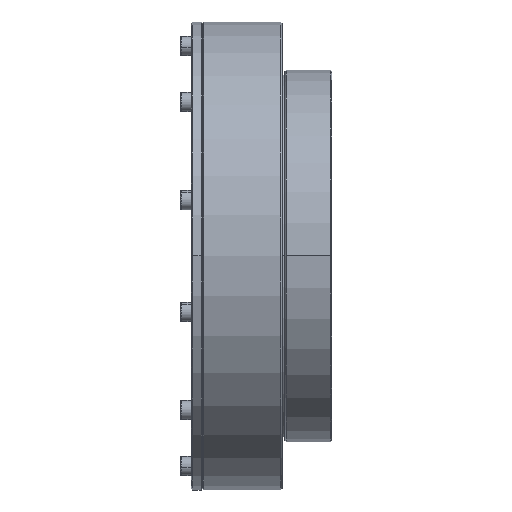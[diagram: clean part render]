
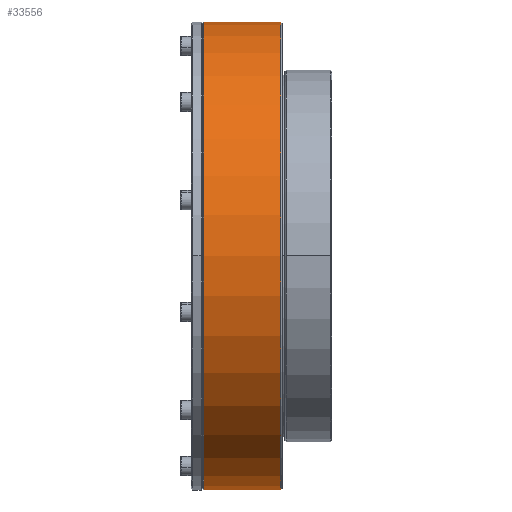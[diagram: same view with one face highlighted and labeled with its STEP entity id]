
A CAD part, top view. The second image highlights one B-rep face of the part: STEP entity #33556.
In plain terms, the highlighted cylindrical face has radius 85 mm (diameter 170 mm), a partial arc.
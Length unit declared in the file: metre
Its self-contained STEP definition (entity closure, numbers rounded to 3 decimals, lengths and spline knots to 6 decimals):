
#1114 = AXIS2_PLACEMENT_3D ( 'NONE', #26437, #18311, #25896 ) ;
#1259 = ORIENTED_EDGE ( 'NONE', *, *, #35177, .T. ) ;
#4681 = DIRECTION ( 'NONE',  ( 1., 0., 0. ) ) ;
#5251 = CIRCLE ( 'NONE', #1114, 0.085 ) ;
#5787 = VECTOR ( 'NONE', #33459, 1. ) ;
#5799 = AXIS2_PLACEMENT_3D ( 'NONE', #33325, #22035, #11098 ) ;
#7640 = CARTESIAN_POINT ( 'NONE',  ( 0.028066, 0., 0. ) ) ;
#8713 = VERTEX_POINT ( 'NONE', #17053 ) ;
#9755 = EDGE_CURVE ( 'NONE', #31147, #8713, #31751, .T. ) ;
#10392 = CYLINDRICAL_SURFACE ( 'NONE', #28118, 0.085 ) ;
#10508 = CIRCLE ( 'NONE', #5799, 0.085 ) ;
#10875 = EDGE_CURVE ( 'NONE', #8713, #22574, #10508, .T. ) ;
#11098 = DIRECTION ( 'NONE',  ( 0., 1., 0. ) ) ;
#12943 = CARTESIAN_POINT ( 'NONE',  ( 0.028066, 0.085, 0. ) ) ;
#13923 = CARTESIAN_POINT ( 'NONE',  ( -0.0229, -0.085, 0. ) ) ;
#14545 = CARTESIAN_POINT ( 'NONE',  ( 0.028066, -0.085, 0. ) ) ;
#14622 = VECTOR ( 'NONE', #20460, 1. ) ;
#14863 = VERTEX_POINT ( 'NONE', #26338 ) ;
#16267 = ORIENTED_EDGE ( 'NONE', *, *, #10875, .T. ) ;
#17053 = CARTESIAN_POINT ( 'NONE',  ( 0.0051, -0.085, 0. ) ) ;
#18311 = DIRECTION ( 'NONE',  ( 1., 0., 0. ) ) ;
#18562 = EDGE_CURVE ( 'NONE', #14863, #22574, #21632, .T. ) ;
#18759 = FACE_OUTER_BOUND ( 'NONE', #30966, .T. ) ;
#20460 = DIRECTION ( 'NONE',  ( 1., 0., 0. ) ) ;
#20792 = ORIENTED_EDGE ( 'NONE', *, *, #18562, .F. ) ;
#21632 = LINE ( 'NONE', #12943, #5787 ) ;
#22035 = DIRECTION ( 'NONE',  ( -1., 0., 0. ) ) ;
#22574 = VERTEX_POINT ( 'NONE', #25657 ) ;
#25657 = CARTESIAN_POINT ( 'NONE',  ( 0.0051, 0.085, 0. ) ) ;
#25896 = DIRECTION ( 'NONE',  ( 0., 1., 0. ) ) ;
#26338 = CARTESIAN_POINT ( 'NONE',  ( -0.0229, 0.085, 0. ) ) ;
#26437 = CARTESIAN_POINT ( 'NONE',  ( -0.0229, 0., 0. ) ) ;
#27442 = DIRECTION ( 'NONE',  ( 0., 1., 0. ) ) ;
#28118 = AXIS2_PLACEMENT_3D ( 'NONE', #7640, #4681, #27442 ) ;
#30966 = EDGE_LOOP ( 'NONE', ( #1259, #35978, #16267, #20792 ) ) ;
#31147 = VERTEX_POINT ( 'NONE', #13923 ) ;
#31751 = LINE ( 'NONE', #14545, #14622 ) ;
#33325 = CARTESIAN_POINT ( 'NONE',  ( 0.0051, 0., 0. ) ) ;
#33459 = DIRECTION ( 'NONE',  ( 1., 0., 0. ) ) ;
#33556 = ADVANCED_FACE ( 'NONE', ( #18759 ), #10392, .T. ) ;
#35177 = EDGE_CURVE ( 'NONE', #14863, #31147, #5251, .T. ) ;
#35978 = ORIENTED_EDGE ( 'NONE', *, *, #9755, .T. ) ;
